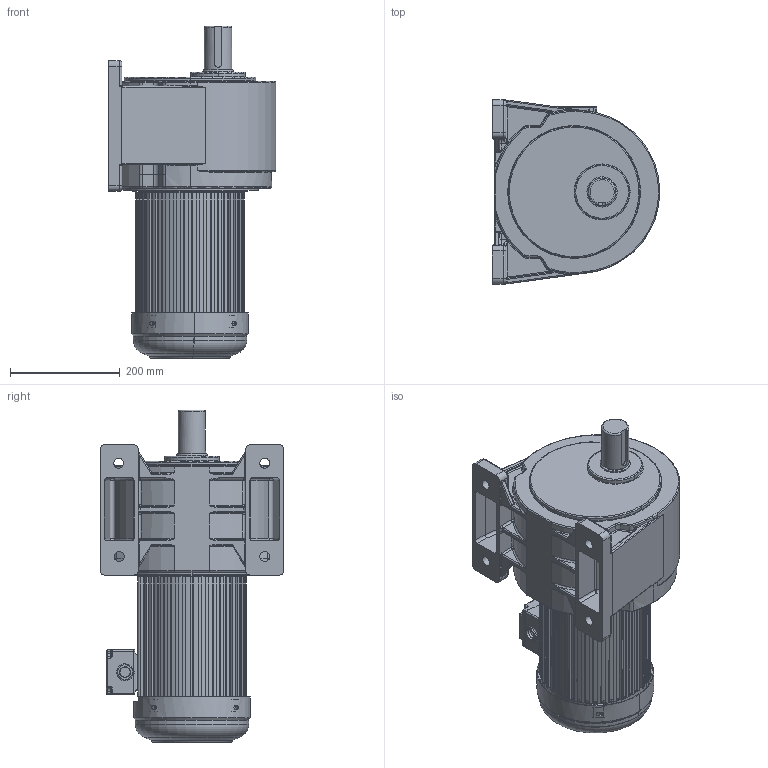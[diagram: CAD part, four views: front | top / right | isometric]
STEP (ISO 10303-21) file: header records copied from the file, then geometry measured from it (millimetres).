
FILE_DESCRIPTION(('HOOPS Exchange Step'),'2;1');
FILE_NAME('D:/ModelConvertServices/Model.001/TZT.New3D001/output/9f7f1199-d710-4a4a-8383-bc640e1894c3/GH50-3700-□-S-G1-LB.step','2026-07-29T08:50:11+08:00',('SYSTEM'),('Unknown organisation'),'HOOPS Exchange 2024.3','HOOPS Exchange','Unknown authorisation');
FILE_SCHEMA( ('AP203_CONFIGURATION_CONTROLLED_3D_DESIGN_OF_MECHANICAL_PARTS_AND_ASSEMBLIES_MIM_LF') );
Length unit declared in the file: millimetre
Products named in the file (1): AdmiE513rs8s
Bounding box: 305 x 335 x 604.5 mm (x, y, z)
Volume: 23027617.3 mm3; surface area: 1100119.4 mm2
Topology: 1 solids, 10 shells, 2079 faces, 5697 edges, 3602 vertices
Faces by surface type: plane 984, cylinder 772, torus 176, bspline 71, sphere 56, cone 20
Full cylindrical faces by diameter (mm): 18 x4, 49.6 x1, 50 x1, 55 x1, 66 x1, 180.5 x1
Entity records: 73686 total; most frequent: CARTESIAN_POINT 20163, ORIENTED_EDGE 11252, DIRECTION 11110, EDGE_CURVE 5626, AXIS2_PLACEMENT_3D 3796, VERTEX_POINT 3602, VECTOR 3518, LINE 3518
